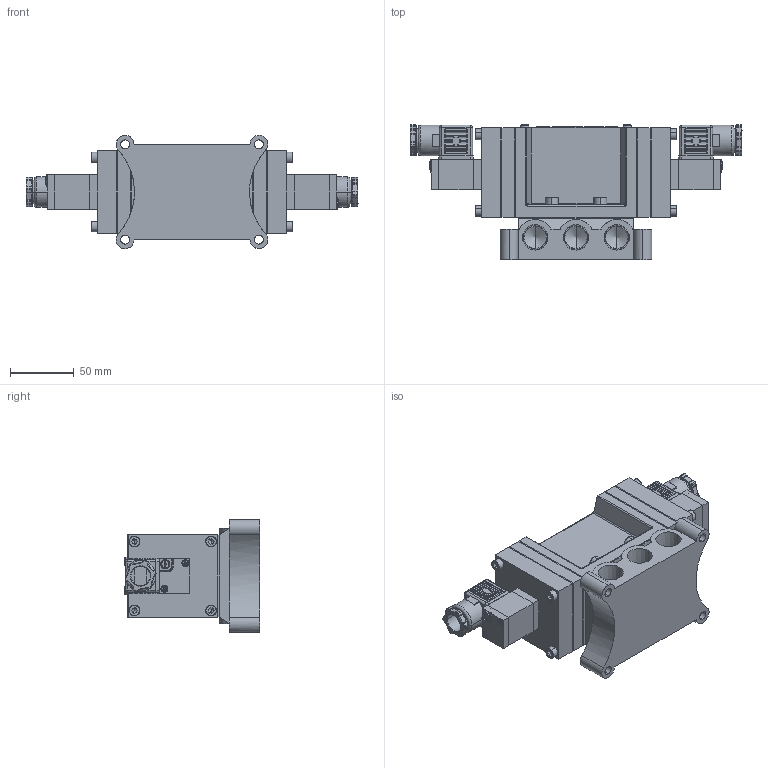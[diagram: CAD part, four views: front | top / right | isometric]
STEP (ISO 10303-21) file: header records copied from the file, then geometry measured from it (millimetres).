
FILE_DESCRIPTION (( 'STEP AP203' ), '1' );
FILE_NAME ('PMD(E)3410#-04-#C#.STEP', '2016-03-09T05:48:43', ( 'Sam Lin' ), ( '' ), 'SwSTEP 2.0', 'SolidWorks 2013', '' );
FILE_SCHEMA (( 'CONFIG_CONTROL_DESIGN' ));
Length unit declared in the file: metre
Products named in the file (18): PMS2410-7; PMS2410-6(04); PMS2410-1; PMD3410-1; PMS2410-2; PMD(E)3410#-04-#C#; PMS2410-3; PMS2410-8; PMS2410-4; PM06-C1; ISO 4762 M5 x 20; PM06-C4; PM06-C3-M4; PM06-C6-M3; ISO 4762 M6 x 20; PM06-C5; PM10-MARK-2410; PMS2306-6(C)
Assembly tree (43 placements, depth 2):
  PMD(E)3410#-04-#C#
    PMS2410-1
    PMS2410-2
    PMS2410-3  x4
    PMS2410-4  x2
    ISO 4762 M5 x 20  x8
    PM06-C3-M4  x4
    ISO 4762 M6 x 20  x4
    PM10-MARK-2410
    PMS2410-7
    PMS2410-8  x2
    PM06-C1  x2
    PM06-C4  x2
    PM06-C6-M3  x4
    PM06-C5  x2
    PMS2306-6(C)  x2
    PMS2410-6(04)
    PMD3410-1  x2
Bounding box: 260 x 106.35 x 88.61 mm (x, y, z)
Volume: 860730.7 mm3; surface area: 225129.4 mm2
Topology: 49 solids, 49 shells, 1660 faces, 4141 edges, 2391 vertices
Faces by surface type: plane 654, cylinder 468, bspline 400, cone 138
Entity records: 34022 total; most frequent: CARTESIAN_POINT 14512, ORIENTED_EDGE 3618, DIRECTION 3292, EDGE_CURVE 1809, AXIS2_PLACEMENT_3D 1213, VERTEX_POINT 1141, EDGE_LOOP 882, LINE 866
